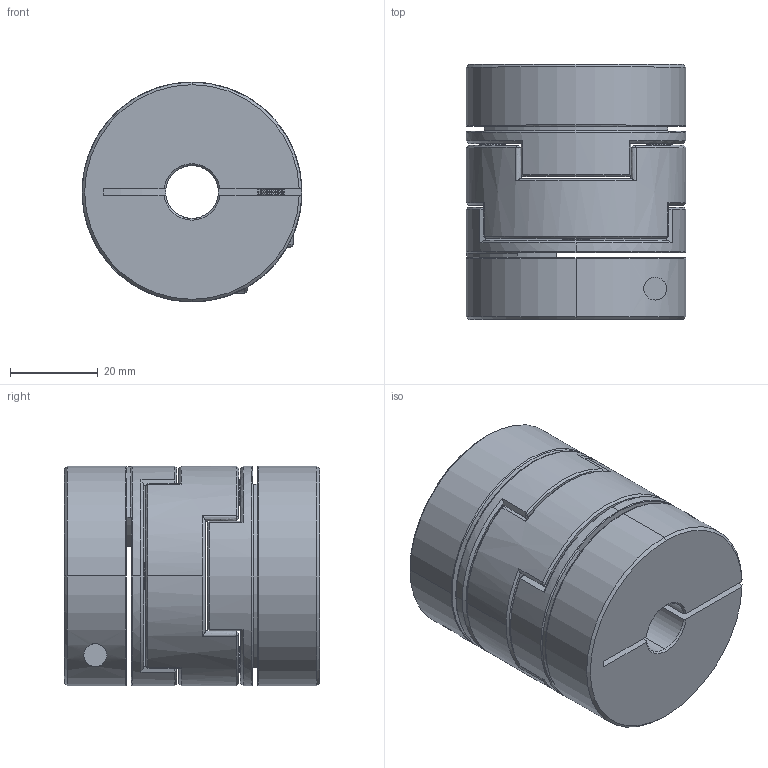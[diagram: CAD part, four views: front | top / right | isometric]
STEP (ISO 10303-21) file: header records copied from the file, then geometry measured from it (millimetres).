
FILE_DESCRIPTION (( 'STEP AP203' ), '1' );
FILE_NAME ('LZ-B-D50L58-12-19.STEP', '2021-10-29T07:28:44', ( '' ), ( '' ), 'SwSTEP 2.0', 'SolidWorks 2018', '' );
FILE_SCHEMA (( 'CONFIG_CONTROL_DESIGN' ));
Length unit declared in the file: millimetre
Products named in the file (1): LZ-B-D50L58-12-19
Bounding box: 50 x 58 x 50 mm (x, y, z)
Volume: 93291 mm3; surface area: 30072.1 mm2
Topology: 1 solids, 27 shells, 560 faces, 1364 edges, 810 vertices
Faces by surface type: cone 252, cylinder 160, plane 90, bspline 54, torus 4
Entity records: 17422 total; most frequent: CARTESIAN_POINT 4342, DIRECTION 2782, ORIENTED_EDGE 2720, EDGE_CURVE 1360, AXIS2_PLACEMENT_3D 1123, VERTEX_POINT 810, CIRCLE 616, EDGE_LOOP 594
